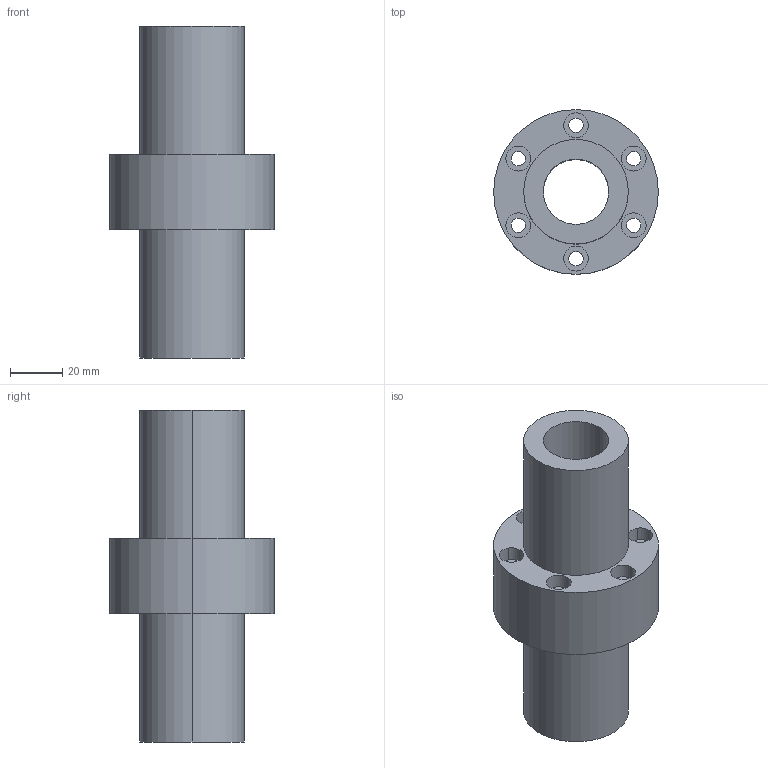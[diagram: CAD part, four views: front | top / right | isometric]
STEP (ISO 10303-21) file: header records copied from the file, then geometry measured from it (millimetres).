
FILE_DESCRIPTION((''),'2;1');
FILE_NAME('25-6T4','2008-04-07T',('yanyu'),(''),'PRO/ENGINEER BY PARAMETRIC TECHNOLOGY CORPORATION, 2005070','PRO/ENGINEER BY PARAMETRIC TECHNOLOGY CORPORATION, 2005070','');
FILE_SCHEMA(('CONFIG_CONTROL_DESIGN'));
Length unit declared in the file: millimetre
Products named in the file (1): 25-6T4
Bounding box: 63 x 63 x 127 mm (x, y, z)
Volume: 145520.5 mm3; surface area: 36418.1 mm2
Topology: 1 solids, 1 shells, 42 faces, 100 edges, 68 vertices
Faces by surface type: cylinder 32, plane 10
Entity records: 1330 total; most frequent: DIRECTION 252, CARTESIAN_POINT 210, ORIENTED_EDGE 200, AXIS2_PLACEMENT_3D 110, EDGE_CURVE 100, VERTEX_POINT 68, CIRCLE 68, EDGE_LOOP 64
